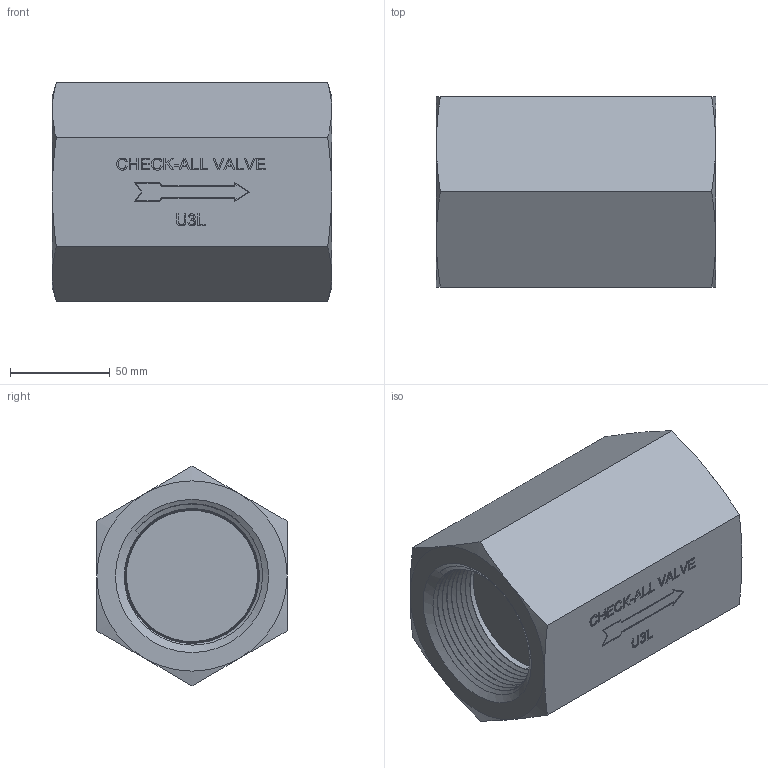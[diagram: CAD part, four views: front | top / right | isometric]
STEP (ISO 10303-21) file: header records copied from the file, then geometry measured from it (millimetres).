
FILE_DESCRIPTION( ( 'Unknown' ), '1' );
FILE_NAME( 'Y:/ENGR/3D Solid Edge Models/U3/U3-PRT/U3L.stp', 'Unknown', ( 'Unknown' ), ( 'Unknown' ), 'PSStep 14.0', 'Unknown', ' ' );
FILE_SCHEMA( ( 'AUTOMOTIVE_DESIGN { 1 0 10303 214 1 1 1 1 }' ) );
Length unit declared in the file: inch
Products named in the file (1): 1
Bounding box: 139.83 x 95.25 x 109.99 mm (x, y, z)
Volume: 870908.7 mm3; surface area: 83432.6 mm2
Topology: 1 solids, 1 shells, 217 faces, 560 edges, 368 vertices
Faces by surface type: extrusion 132, plane 57, cone 16, bspline 12
Entity records: 17009 total; most frequent: CARTESIAN_POINT 10403, ORIENTED_EDGE 1112, DIRECTION 650, EDGE_CURVE 556, VECTOR 470, VERTEX_POINT 366, LINE 338, B_SPLINE_CURVE_WITH_KNOTS 334
